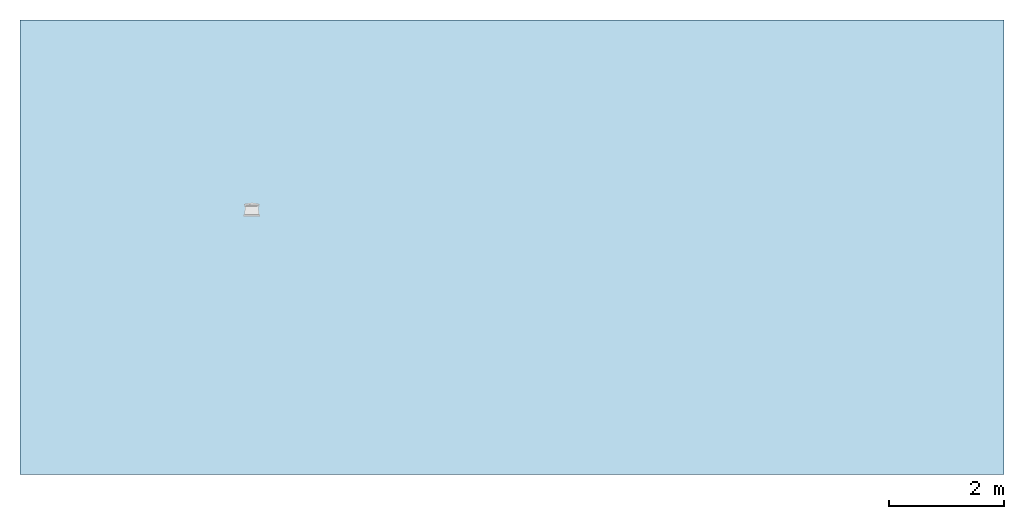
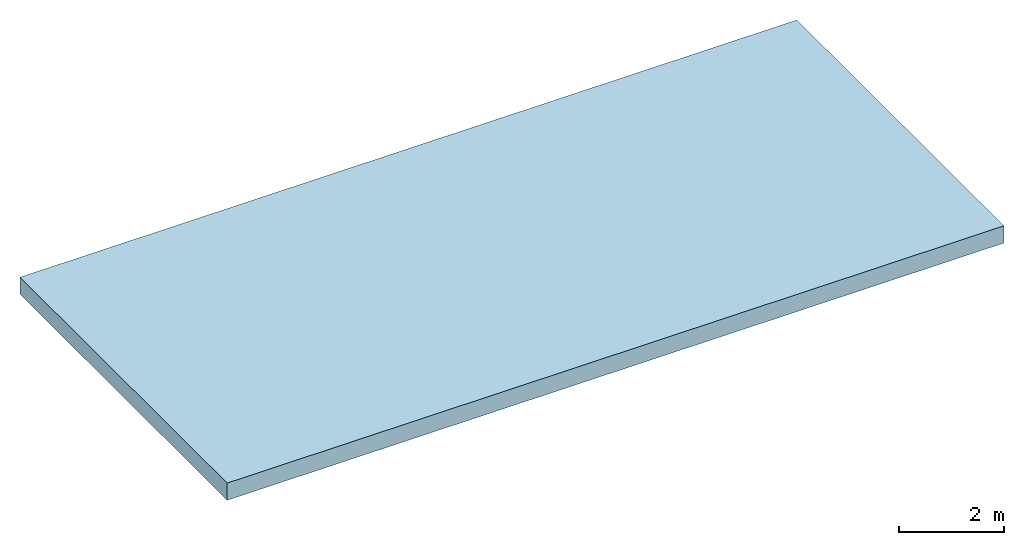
# One storey, incomplete: 1 slab, 1 opening.
"""IFC2X3 building model written with IfcOpenShell, lengths in millimetres."""

from ifc_helpers import new_model, entity, si_unit, converted_unit, direction, frame, frame_2d, origin, origin_2d_with_axis, place, context, subcontext, project, spatial, rectangle, extrude, material, layer, layer_set, layer_usage, element, save


model = new_model("IFC2X3")

# Units and contexts
model_context = context("Model", 3, precision=1e-06, world=origin(), true_north=direction((2.0, 6.12303176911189e-17, 1.0)))
context_of_model = context(None, 3, precision=1e-06, world=origin(), true_north=direction((2.0, 6.12303176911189e-17, 1.0)))
body_context = subcontext(model_context, "Body", "Model", "MODEL_VIEW")
ifc_project = project(units=[si_unit("LENGTHUNIT", "METRE", prefix="MILLI"), si_unit("AREAUNIT", "SQUARE_METRE", prefix="MILLI"), si_unit("VOLUMEUNIT", "CUBIC_METRE", prefix="MILLI"), converted_unit("PLANEANGLEUNIT", "DEGREE", entity("IfcRatioMeasure", 0.0174532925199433), si_unit("PLANEANGLEUNIT", "RADIAN"), dimensions=[0, 0, 0, 0, 0, 0, 0]), si_unit("TIMEUNIT", "SECOND")], contexts=[model_context, context_of_model])

# Site, building, storey
site_placement = place(None, origin())
site = spatial("IfcSite", under=ifc_project, at=site_placement, Name="Default", CompositionType="ELEMENT")
building_placement = place(site_placement, origin())
building = spatial("IfcBuilding", under=site, at=building_placement, CompositionType="ELEMENT")
storey_placement = place(building_placement, origin())
storey = spatial("IfcBuildingStorey", under=building, at=storey_placement, Name="Level 1", CompositionType="ELEMENT", Elevation=0.0)

# Slab, opening
ifc_material = material(Name="Plant")
ifc_layer = layer(ifc_material, 400.0)
ifc_layer_set = layer_set([ifc_layer], Name="Floor:Generic Floor - 400mm")
ifc_layer_usage = layer_usage(ifc_layer_set, "AXIS3", "POSITIVE", 0.0)
slab_placement = place(storey_placement, origin())
slab = element("IfcSlab", 1, at=slab_placement, inside=storey, material=ifc_layer_usage, Name="Floor:Generic Floor - 400mm", ObjectType="Floor:Generic Floor - 400mm", PredefinedType="FLOOR", context=body_context, shape_type="SweptSolid", body=[
    extrude(rectangle(XDim=7900.0, YDim=17100.0, at=frame_2d((0.0, 0.0), x_axis=(0.0, -1.0))), frame((-8097.86261836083, 1059.07636553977, 0.0), z_axis=(0.0, 0.0, -1.0), x_axis=(-1.0, 0.0, 0.0)), (0.0, 0.0, 1.0), 400.0),
])
opening_placement = place(slab_placement, origin())
element("IfcOpeningElement", 2, at=opening_placement, cuts=slab, ObjectType="Recess", context=body_context, shape_type="SweptSolid", body=[
    extrude(rectangle(XDim=239.22475192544, YDim=289.399999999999, at=origin_2d_with_axis()), frame((-12618.8968527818, 1714.98294332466, -559.690023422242), z_axis=(0.0, 0.0, 1.0), x_axis=(0.0, 1.0, 0.0)), (0.0, 0.0, 1.0), 289.379964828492),
])

save(model, "model.ifc")
